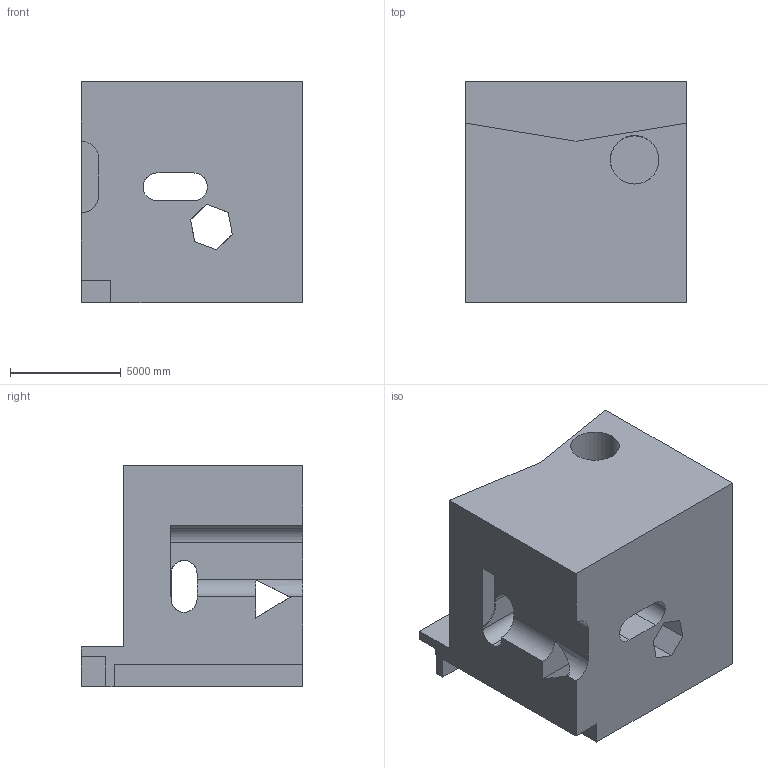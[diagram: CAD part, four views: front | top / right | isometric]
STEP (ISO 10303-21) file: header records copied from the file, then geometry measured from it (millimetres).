
FILE_DESCRIPTION (( 'STEP AP203' ), '1' );
FILE_NAME ('899.STEP', '2022-08-05T15:27:50', ( 'user' ), ( '' ), 'SwSTEP 2.0', 'SolidWorks 2021', '' );
FILE_SCHEMA (( 'CONFIG_CONTROL_DESIGN' ));
Length unit declared in the file: centimetre
Products named in the file (1): 899
Bounding box: 10000 x 10000 x 10000 mm (x, y, z)
Volume: 679759598375.4 mm3; surface area: 773174551.5 mm2
Topology: 1 solids, 1 shells, 57 faces, 204 edges, 136 vertices
Faces by surface type: plane 42, cylinder 15
Entity records: 2844 total; most frequent: CARTESIAN_POINT 1037, ORIENTED_EDGE 408, DIRECTION 319, EDGE_CURVE 204, VECTOR 153, LINE 153, VERTEX_POINT 136, AXIS2_PLACEMENT_3D 83
